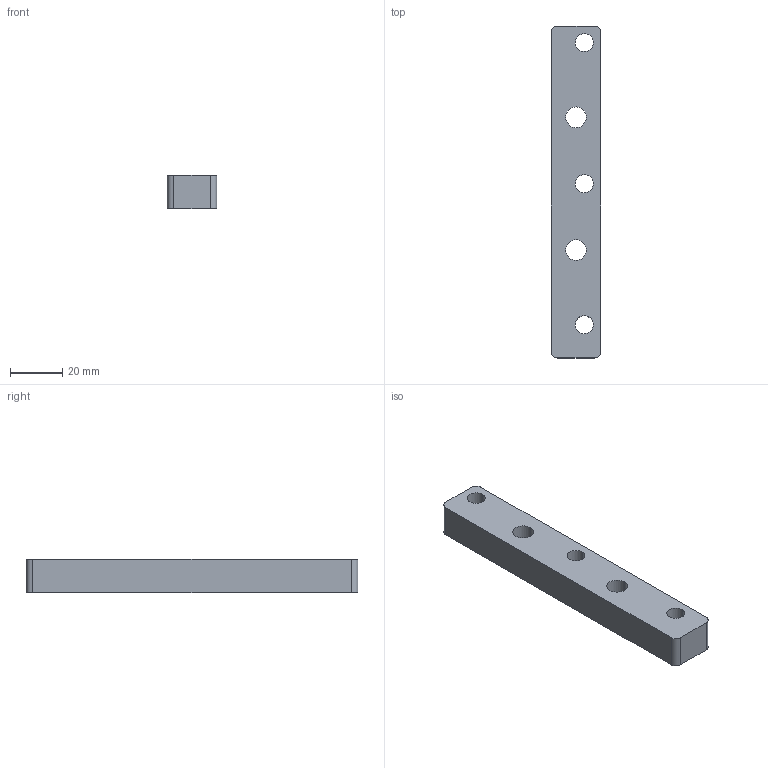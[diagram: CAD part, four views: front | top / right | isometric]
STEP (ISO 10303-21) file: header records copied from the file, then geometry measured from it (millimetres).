
FILE_DESCRIPTION (( 'STEP AP203' ), '1' );
FILE_NAME ('Gantry Slide Mount B1.STEP', '2014-01-27T21:36:56', ( 'Neil' ), ( 'Hewlett-Packard Company' ), 'SwSTEP 2.0', 'SolidWorks 2010', '' );
FILE_SCHEMA (( 'CONFIG_CONTROL_DESIGN' ));
Length unit declared in the file: inch
Products named in the file (1): Gantry Slide Mount B1
Bounding box: 19.05 x 127 x 12.7 mm (x, y, z)
Volume: 27991.2 mm3; surface area: 9516.6 mm2
Topology: 1 solids, 1 shells, 20 faces, 54 edges, 36 vertices
Faces by surface type: cylinder 14, plane 6
Entity records: 745 total; most frequent: DIRECTION 124, CARTESIAN_POINT 111, ORIENTED_EDGE 108, EDGE_CURVE 54, AXIS2_PLACEMENT_3D 49, VERTEX_POINT 36, EDGE_LOOP 30, CIRCLE 28
